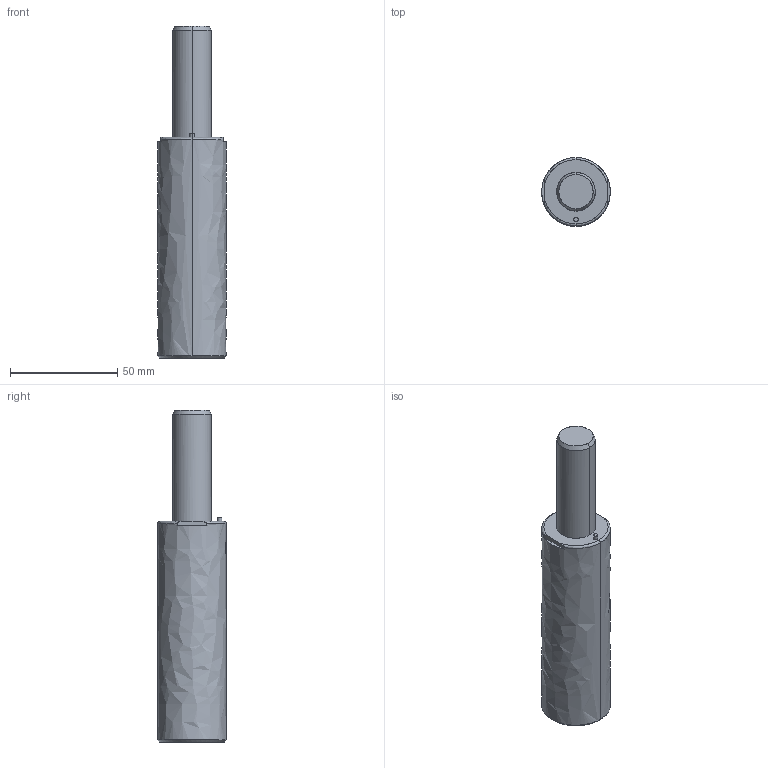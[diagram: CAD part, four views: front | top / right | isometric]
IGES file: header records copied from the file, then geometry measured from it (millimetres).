
Global section: file name: E:\UnigraphicsGraphicData\MISUMI_PRESS-PARTS\IGES\3d_gsx32-50_03993_r00.igs; native system: NX V5.0; preprocessor: UGS NX IGES V5.0; author: MISUMI; date: 20110105.160822; units: millimetre
Bounding box: 32 x 32 x 155 mm (x, y, z)
Surface area: 15658.8 mm2 (no closed solid volume)
Topology: 0 solids, 0 shells, 45 faces, 308 edges, 304 vertices
Faces by surface type: bspline 45
